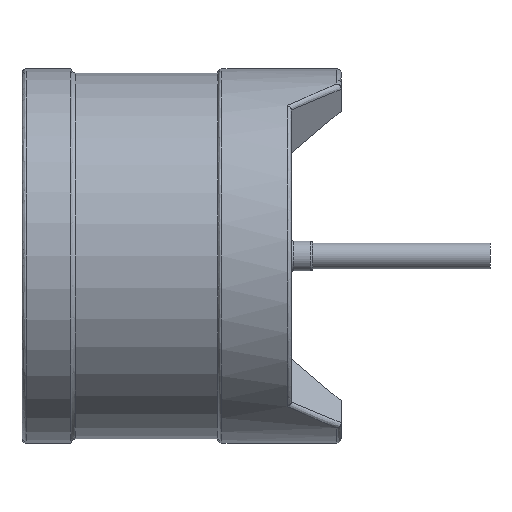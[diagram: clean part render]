
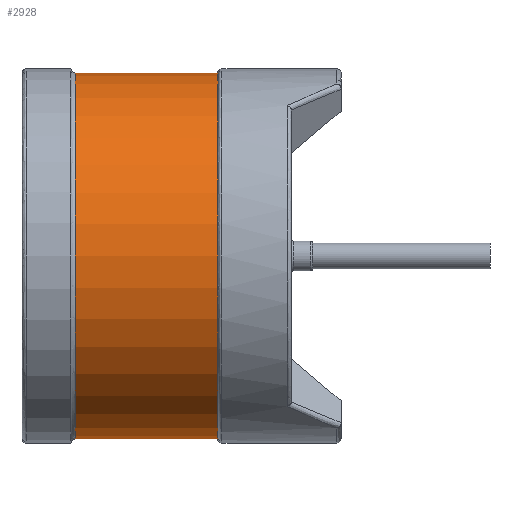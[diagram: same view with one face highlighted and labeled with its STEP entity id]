
A CAD part, left-side view. The second image highlights one B-rep face of the part: STEP entity #2928.
In plain terms, the highlighted cylindrical face has radius 4.3 mm (diameter 8.6 mm), a partial arc.
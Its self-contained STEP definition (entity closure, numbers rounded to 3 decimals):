
#33 = EDGE_CURVE ( 'NONE', #2311, #2310, #2598, .T. ) ;
#63 = EDGE_CURVE ( 'NONE', #2310, #2286, #3687, .T. ) ;
#113 = EDGE_CURVE ( 'NONE', #2298, #2311, #3743, .T. ) ;
#170 = EDGE_CURVE ( 'NONE', #2298, #2286, #2331, .T. ) ;
#262 = DIRECTION ( 'NONE',  ( 0., -1., 0. ) ) ;
#280 = DIRECTION ( 'NONE',  ( 0., 0., 1. ) ) ;
#288 = CARTESIAN_POINT ( 'NONE',  ( 0., 6.25, 0. ) ) ;
#603 = CARTESIAN_POINT ( 'NONE',  ( 0., 2.9, 0. ) ) ;
#605 = DIRECTION ( 'NONE',  ( 0., 1., 0. ) ) ;
#606 = DIRECTION ( 'NONE',  ( 0., 0., -1. ) ) ;
#713 = DIRECTION ( 'NONE',  ( 0., -1., 0. ) ) ;
#717 = CARTESIAN_POINT ( 'NONE',  ( 0., 6.35, -4.3 ) ) ;
#1404 = DIRECTION ( 'NONE',  ( 0., 0., -1. ) ) ;
#1405 = CARTESIAN_POINT ( 'NONE',  ( 0., 6.35, 0. ) ) ;
#1406 = DIRECTION ( 'NONE',  ( 0., -1., 0. ) ) ;
#2004 = AXIS2_PLACEMENT_3D ( 'NONE', #1405, #1406, #1404 ) ;
#2053 = VECTOR ( 'NONE', #3479, 1000. ) ;
#2286 = VERTEX_POINT ( 'NONE', #3669 ) ;
#2298 = VERTEX_POINT ( 'NONE', #3657 ) ;
#2310 = VERTEX_POINT ( 'NONE', #3662 ) ;
#2311 = VERTEX_POINT ( 'NONE', #3634 ) ;
#2331 = LINE ( 'NONE', #3478, #2053 ) ;
#2535 = EDGE_LOOP ( 'NONE', ( #2680, #2668, #2761, #2760 ) ) ;
#2598 = LINE ( 'NONE', #717, #3679 ) ;
#2668 = ORIENTED_EDGE ( 'NONE', *, *, #113, .T. ) ;
#2680 = ORIENTED_EDGE ( 'NONE', *, *, #170, .F. ) ;
#2760 = ORIENTED_EDGE ( 'NONE', *, *, #63, .T. ) ;
#2761 = ORIENTED_EDGE ( 'NONE', *, *, #33, .T. ) ;
#2928 = ADVANCED_FACE ( 'NONE', ( #3121 ), #3111, .T. ) ;
#3111 = CYLINDRICAL_SURFACE ( 'NONE', #2004, 4.3 ) ;
#3121 = FACE_OUTER_BOUND ( 'NONE', #2535, .T. ) ;
#3478 = CARTESIAN_POINT ( 'NONE',  ( 0., 6.35, 4.3 ) ) ;
#3479 = DIRECTION ( 'NONE',  ( 0., -1., 0. ) ) ;
#3634 = CARTESIAN_POINT ( 'NONE',  ( 0., 6.25, -4.3 ) ) ;
#3657 = CARTESIAN_POINT ( 'NONE',  ( 0., 6.25, 4.3 ) ) ;
#3662 = CARTESIAN_POINT ( 'NONE',  ( 0., 2.9, -4.3 ) ) ;
#3669 = CARTESIAN_POINT ( 'NONE',  ( 0., 2.9, 4.3 ) ) ;
#3679 = VECTOR ( 'NONE', #713, 1000. ) ;
#3687 = CIRCLE ( 'NONE', #3705, 4.3 ) ;
#3705 = AXIS2_PLACEMENT_3D ( 'NONE', #603, #605, #606 ) ;
#3743 = CIRCLE ( 'NONE', #3782, 4.3 ) ;
#3782 = AXIS2_PLACEMENT_3D ( 'NONE', #288, #262, #280 ) ;
